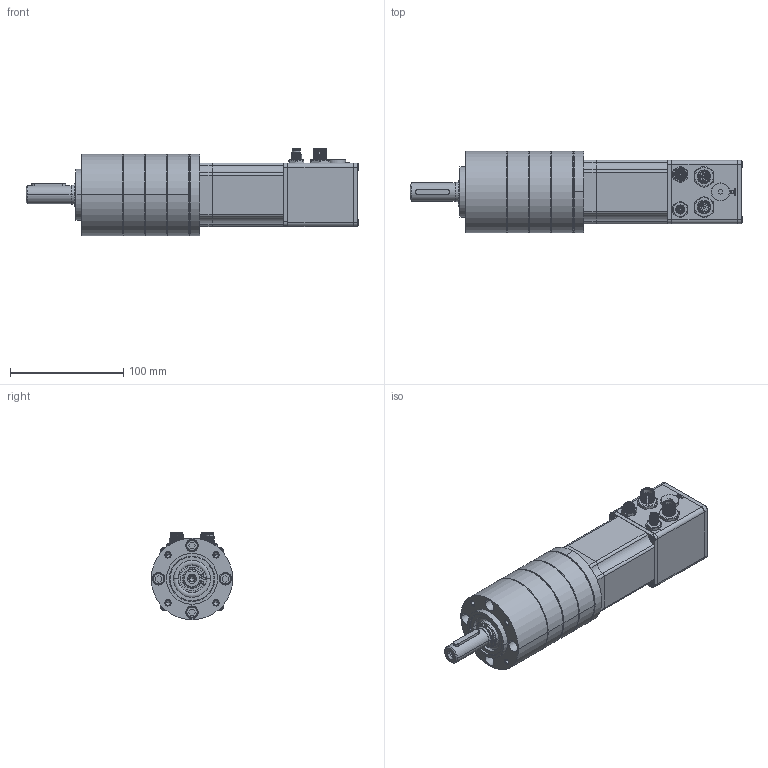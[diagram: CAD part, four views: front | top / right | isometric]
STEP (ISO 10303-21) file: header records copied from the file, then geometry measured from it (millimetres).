
FILE_DESCRIPTION (( 'STEP AP214' ), '1' );
FILE_NAME ('IDX56M_PM72-3stages.STEP', '2020-04-16T13:49:52', ( '' ), ( '' ), 'SwSTEP 2.0', 'SolidWorks 2018', '' );
FILE_SCHEMA (( 'AUTOMOTIVE_DESIGN' ));
Length unit declared in the file: millimetre
Products named in the file (4): 6576738_01_Adapt IDX56_PM72; IDX56M_PM72-3stages; B7B8186B6F20; PM72-3etages
Assembly tree (3 placements, depth 2):
  IDX56M_PM72-3stages
    6576738_01_Adapt IDX56_PM72
    PM72-3etages
    B7B8186B6F20
Bounding box: 293.4 x 72 x 77 mm (x, y, z)
Volume: 462747.3 mm3; surface area: 216179.2 mm2
Topology: 51 solids, 89 shells, 2983 faces, 7370 edges, 4642 vertices
Faces by surface type: cylinder 1075, plane 936, cone 794, bspline 110, torus 68
Entity records: 125516 total; most frequent: CARTESIAN_POINT 19399, DIRECTION 16356, ORIENTED_EDGE 14664, EDGE_CURVE 7350, AXIS2_PLACEMENT_3D 6270, VERTEX_POINT 4642, VECTOR 3816, LINE 3816
